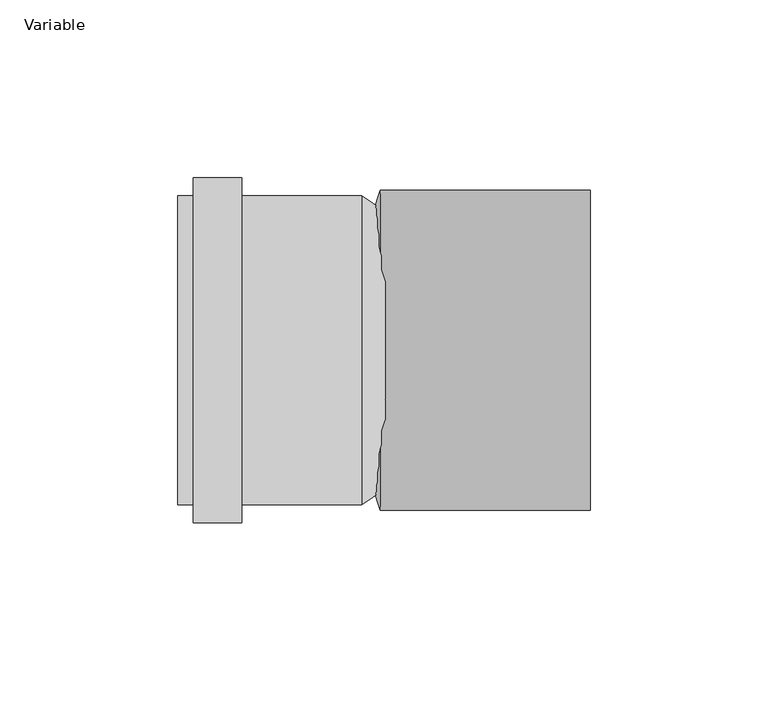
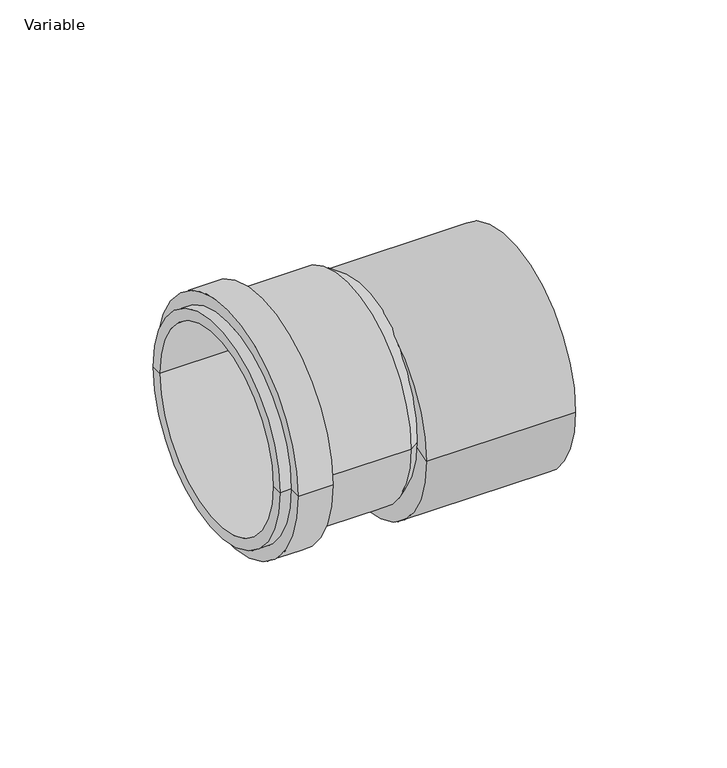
"""IFC4 building model written with IfcOpenShell, lengths in millimetres: pipe fitting geometry, AliaxisFR_Friaphon_Reducer_FR : Variable."""

from ifc_helpers import new_model, si_unit, point, frame, frame_2d, origin, origin_2d, place, context, project, spatial, polyline, circle_curve, trimmed, segment, composite_curve, outline, extrude, source, transform, mapped, element, save
from ifc_brep_helpers import plane_surface, cylinder_surface, revolved_surface, spline_surface, advanced_brep


def variable_4479d033(model_context):
    return source(origin(), model_context, "Body", "SolidModel", [
        advanced_brep(
        [(-85.0, -43.4, 0.0), (-85.0, 43.4, 0.0), (-85.0, 39.0, 0.0), (-85.0, -39.0, 0.0), (-67.0, -48.5, 0.0), (-67.0, 48.5, 0.0), (-80.6, 48.5, 0.0), (-80.6, -48.5, 0.0), (-67.0, -43.4, 0.0), (-67.0, 43.4, 0.0), (-33.2, -43.4, 0.0), (-33.2, 43.4, 0.0), (-26.6, 39.0, 0.0), (-26.6, -39.0, 0.0), (-80.6, -43.4, 0.0), (-80.6, 43.4, 0.0)],
        [
            (0, 1, circle_curve(frame((-85.0, 0.0, 0.0), z_axis=(-1.0, 0.0, 0.0), x_axis=(0.0, 1.0, 0.0)), 43.4)),
            (1, 2),
            (2, 3, circle_curve(frame((-85.0, 0.0, 0.0), z_axis=(1.0, 0.0, 0.0), x_axis=(0.0, 1.0, 0.0)), 39.0)),
            (3, 0),
            (1, 0, circle_curve(frame((-85.0, 0.0, 0.0), z_axis=(-1.0, 0.0, 0.0), x_axis=(0.0, 1.0, 0.0)), 43.4)),
            (3, 2, circle_curve(frame((-85.0, 0.0, 0.0), z_axis=(1.0, 0.0, 0.0), x_axis=(0.0, 1.0, 0.0)), 39.0)),
            (4, 5, circle_curve(frame((-67.0, 0.0, 0.0), z_axis=(-1.0, 0.0, 0.0), x_axis=(0.0, 1.0, 0.0)), 48.5)),
            (5, 6),
            (6, 7, circle_curve(frame((-80.6, 0.0, 0.0), z_axis=(1.0, 0.0, 0.0), x_axis=(0.0, 1.0, 0.0)), 48.5)),
            (7, 4),
            (5, 4, circle_curve(frame((-67.0, 0.0, 0.0), z_axis=(-1.0, 0.0, 0.0), x_axis=(0.0, 1.0, 0.0)), 48.5)),
            (7, 6, circle_curve(frame((-80.6, 0.0, 0.0), z_axis=(1.0, 0.0, 0.0), x_axis=(0.0, 1.0, 0.0)), 48.5)),
            (8, 9, circle_curve(frame((-67.0, 0.0, 0.0), z_axis=(-1.0, 0.0, 0.0), x_axis=(0.0, 1.0, 0.0)), 43.4)),
            (9, 5),
            (4, 8),
            (9, 8, circle_curve(frame((-67.0, 0.0, 0.0), z_axis=(-1.0, 0.0, 0.0), x_axis=(0.0, 1.0, 0.0)), 43.4)),
            (10, 11, circle_curve(frame((-33.2, 0.0, 0.0), z_axis=(-1.0, 0.0, 0.0), x_axis=(0.0, 1.0, 0.0)), 43.4)),
            (11, 9),
            (8, 10),
            (11, 10, circle_curve(frame((-33.2, 0.0, 0.0), z_axis=(-1.0, 0.0, 0.0), x_axis=(0.0, 1.0, 0.0)), 43.4)),
            (2, 12),
            (12, 13, circle_curve(frame((-26.6, 0.0, 0.0), z_axis=(1.0, 0.0, 0.0), x_axis=(0.0, 1.0, 0.0)), 39.0)),
            (13, 3),
            (13, 12, circle_curve(frame((-26.6, 0.0, 0.0), z_axis=(1.0, 0.0, 0.0), x_axis=(0.0, 1.0, 0.0)), 39.0)),
            (12, 11),
            (10, 13),
            (14, 15, circle_curve(frame((-80.6, 0.0, 0.0), z_axis=(-1.0, 0.0, 0.0), x_axis=(0.0, 1.0, 0.0)), 43.4)),
            (15, 1),
            (0, 14),
            (15, 14, circle_curve(frame((-80.6, 0.0, 0.0), z_axis=(-1.0, 0.0, 0.0), x_axis=(0.0, 1.0, 0.0)), 43.4)),
            (6, 15),
            (14, 7),
        ],
        [
            plane_surface(frame((-85.0, 0.0, 0.0), z_axis=(-1.0, 0.0, 0.0), x_axis=(0.0, 1.0, 0.0))),
            cylinder_surface(frame((-26.6, 0.0, 0.0), z_axis=(1.0, 0.0, 0.0), x_axis=(0.0, 1.0, 0.0)), 48.5),
            plane_surface(frame((-67.0, 0.0, 0.0), z_axis=(1.0, 0.0, 0.0), x_axis=(0.0, 1.0, 0.0))),
            cylinder_surface(frame((-26.6, 0.0, 0.0), z_axis=(1.0, 0.0, 0.0), x_axis=(0.0, 1.0, 0.0)), 43.4),
            revolved_surface(polyline([(-26.6, 39.0, 0.0), (-85.0, 39.0, 0.0)]), (-26.6, 0.0, 0.0), (1.0, 0.0, 0.0)),
            revolved_surface(polyline([(-33.2, 43.4, 0.0), (-26.6, 39.0, 0.0)]), (-26.6, 0.0, 0.0), (1.0, 0.0, 0.0)),
            plane_surface(frame((-80.6, 0.0, 0.0), z_axis=(-1.0, 0.0, 0.0), x_axis=(0.0, 1.0, 0.0))),
        ],
        [
            (0, [[1, 2, 3, 4]]),
            (0, [[5, -4, 6, -2]]),
            (1, [[7, 8, 9, 10]]),
            (1, [[11, -10, 12, -8]]),
            (2, [[13, 14, -7, 15]]),
            (2, [[16, -15, -11, -14]]),
            (3, [[17, 18, -13, 19]]),
            (3, [[20, -19, -16, -18]]),
            (4, [[-3, 21, 22, 23]]),
            (4, [[-6, -23, 24, -21]]),
            (5, [[-22, 25, -17, 26]]),
            (5, [[-24, -26, -20, -25]]),
            (3, [[27, 28, -1, 29]]),
            (3, [[30, -29, -5, -28]]),
            (6, [[-9, 31, -27, 32]]),
            (6, [[-12, -32, -30, -31]]),
        ],
    ),
        extrude(outline(composite_curve([segment(trimmed(circle_curve(origin_2d(), 39.0), [point((-39.0, 0.0))], [point((39.0, 0.0))], False, "CARTESIAN"), True, "CONTINUOUS"), segment(trimmed(circle_curve(origin_2d(), 39.0), [point((39.0, 0.0))], [point((-39.0, 0.0))], False, "CARTESIAN"), True, "CONTINUOUS")], self_intersect=False)), frame((-31.0, 0.0, 0.0), z_axis=(1.0, 0.0, 0.0), x_axis=(0.0, 1.0, 0.0)), (0.0, 0.0, 1.0), 1.0),
        advanced_brep(
        [(-30.0, -39.0, 0.0), (-30.0, 39.0, 0.0), (-28.0, -45.0, -6.0), (-28.0, 45.0, -6.0)],
        [
            (0, 1, circle_curve(frame((-30.0, 0.0, 0.0), z_axis=(-1.0, 0.0, 0.0), x_axis=(0.0, 1.0, 0.0)), 39.0)),
            (1, 0, circle_curve(frame((-30.0, 0.0, 0.0), z_axis=(-1.0, 0.0, 0.0), x_axis=(0.0, 1.0, 0.0)), 39.0)),
            (2, 3, circle_curve(frame((-28.0, 0.0, -6.0), z_axis=(1.0, 0.0, 0.0), x_axis=(0.0, 1.0, 0.0)), 45.0)),
            (3, 2, circle_curve(frame((-28.0, 0.0, -6.0), z_axis=(1.0, 0.0, 0.0), x_axis=(0.0, 1.0, 0.0)), 45.0)),
            (3, 1),
            (0, 2),
        ],
        [
            plane_surface(frame((-30.0, 0.0, 0.0), z_axis=(-1.0, 0.0, 0.0), x_axis=(0.0, 0.0, 1.0))),
            plane_surface(frame((-28.0, 0.0, -6.0), z_axis=(1.0, 0.0, 0.0), x_axis=(0.0, 0.0, 1.0))),
            spline_surface(2, 1, [[(-28.0, -45.0, -6.0), (-30.0, -39.0, 0.0)], [(-28.0, -45.0, 39.0), (-30.0, -39.0, 39.0)], [(-28.0, 0.0, 39.0), (-30.0, 0.0, 39.0)], [(-28.0, 45.0, 39.0), (-30.0, 39.0, 39.0)], [(-28.0, 45.0, -6.0), (-30.0, 39.0, 0.0)]], [3, 2, 3], [2, 2], [0.0, 1.0, 2.0], [0.0, 1.0], weights=[[1.0, 1.0], [0.7071067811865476, 0.7071067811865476], [1.0, 1.0], [0.7071067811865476, 0.7071067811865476], [1.0, 1.0]]),
            spline_surface(2, 1, [[(-28.0, 45.0, -6.0), (-30.0, 39.0, 0.0)], [(-28.0, 45.0, -51.0), (-30.0, 39.0, -39.0)], [(-28.0, 0.0, -51.0), (-30.0, 0.0, -39.0)], [(-28.0, -45.0, -51.0), (-30.0, -39.0, -39.0)], [(-28.0, -45.0, -6.0), (-30.0, -39.0, 0.0)]], [3, 2, 3], [2, 2], [0.0, 1.0, 2.0], [0.0, 1.0], weights=[[1.0, 1.0], [0.7071067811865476, 0.7071067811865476], [1.0, 1.0], [0.7071067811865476, 0.7071067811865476], [1.0, 1.0]]),
        ],
        [
            (0, [[1, 2]]),
            (1, [[3, 4]]),
            (2, [[-4, 5, -1, 6]]),
            (3, [[-3, -6, -2, -5]]),
        ],
    ),
        extrude(outline(composite_curve([segment(trimmed(circle_curve(frame_2d((0.0, -6.0)), 45.0), [point((-45.0, -6.0))], [point((45.0, -6.0))], False, "CARTESIAN"), True, "CONTINUOUS"), segment(trimmed(circle_curve(frame_2d((0.0, -6.0)), 45.0), [point((45.0, -6.0))], [point((-45.0, -6.0))], False, "CARTESIAN"), True, "CONTINUOUS")], self_intersect=False)), frame((-28.0, 0.0, 0.0), z_axis=(1.0, 0.0, 0.0), x_axis=(0.0, 1.0, 0.0)), (0.0, 0.0, 1.0), 59.0),
    ])


if __name__ == "__main__":
    model = new_model("IFC4")
    model_context = context("Model", 3, world=origin())
    ifc_project = project(units=[si_unit("LENGTHUNIT", "METRE", prefix="MILLI")], contexts=[model_context])
    site = spatial("IfcSite", under=ifc_project)
    building = spatial("IfcBuilding", under=site)
    placement = place(None, origin())
    variable_shape = variable_4479d033(model_context)
    element("IfcPipeFitting", 1, ObjectType="AliaxisFR_Friaphon_Reducer_FR : Variable", at=placement, inside=building, context=model_context, shape_type="MappedRepresentation", body=[
        mapped(variable_shape, transform((0.0, 0.0, 0.0), x_axis=(1.0, 0.0, 0.0), y_axis=(0.0, 1.0, 0.0), z_axis=(0.0, 0.0, 1.0))),
    ])
    save(model, "model.ifc")
